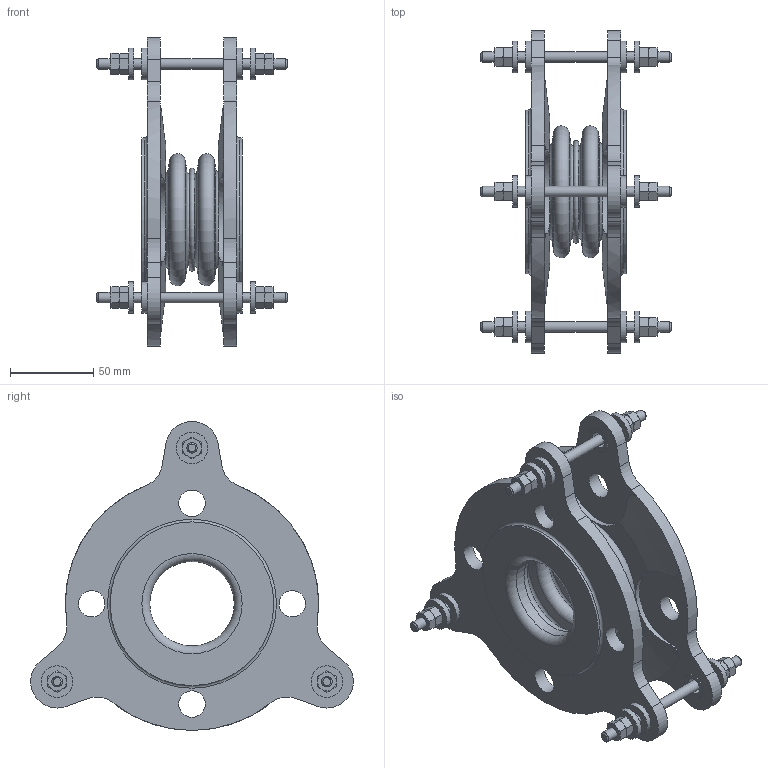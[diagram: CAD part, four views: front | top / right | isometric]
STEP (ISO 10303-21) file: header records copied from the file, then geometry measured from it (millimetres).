
FILE_DESCRIPTION(/* description */ (''),/* implementation_level */ '2;1');
FILE_NAME(/* name */ 'C:\Users\rramoutar\Desktop\802\802 2IDx2.375FF.stp',/* time_stamp */ '2016-04-24T12:06:10-04:00',/* author */ ('rramoutar'),/* organization */ ('Mason Industries Inc.'),/* preprocessor_version */ 'ST-DEVELOPER v15.6',/* originating_system */ 'Autodesk Inventor 2015',/* authorisation */ '');
FILE_SCHEMA (('CONFIG_CONTROL_DESIGN'));
Length unit declared in the file: inch
Products named in the file (1): 802 2IDx2.375FF
Bounding box: 114.3 x 193.98 x 185.74 mm (x, y, z)
Volume: 406360.3 mm3; surface area: 152498.3 mm2
Topology: 5 solids, 11 shells, 490 faces, 1066 edges, 632 vertices
Faces by surface type: cone 190, plane 164, cylinder 115, torus 21
Full cylindrical faces by diameter (mm): 6.35 x15, 7.938 x6, 9.922 x6, 15.478 x6, 15.875 x14, 19.05 x12, 50.8 x2, 53.975 x2, 55.562 x2, 98.425 x2
Entity records: 12796 total; most frequent: CARTESIAN_POINT 2922, DIRECTION 1990, ORIENTED_EDGE 1828, EDGE_CURVE 914, AXIS2_PLACEMENT_3D 905, EDGE_LOOP 693, VERTEX_POINT 605, FACE_OUTER_BOUND 490
